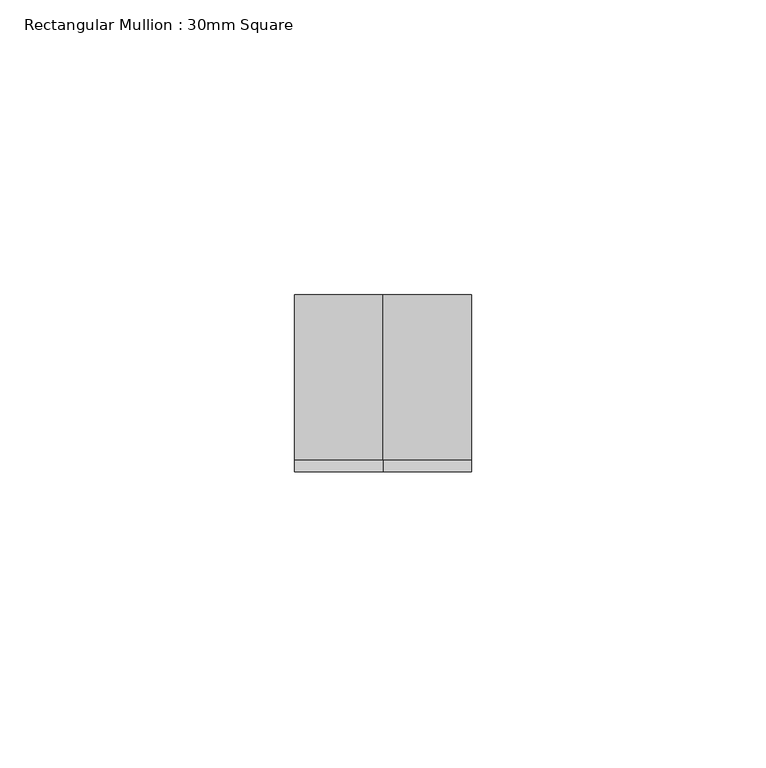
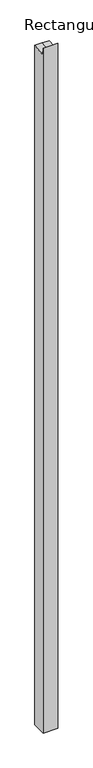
"""IFC4 building model written with IfcOpenShell, lengths in millimetres: member geometry, Rectangular Mullion : 30mm Square."""

from ifc_helpers import new_model, si_unit, origin, place, context, project, spatial, faceted_brep, source, transform, mapped, element, save


def rectangular_mullion_30mm_square_fb89c945(model_context):
    return source(origin(), model_context, "Body", "Brep", [
        faceted_brep([(15.0, 15.0, -1479.0), (15.0, -15.0, -1479.0), (-15.0, -15.0, -1479.0), (-15.0, 15.0, -1479.0), (-15.0, 15.0, 1.7712434), (0.0, 15.0, 1.7712434), (15.0, 15.0, 1.7712434), (-15.0, -15.0, 14.058809), (-15.0, -13.0073511, -1.7573511), (15.0, -15.0, 14.058809), (0.0, -15.0, 14.058809), (15.0, -13.0073511, -1.7573511), (0.0, -13.0073511, -1.7573511)], [[[0, 1, 2, 3]], [[4, 5, 6, 0, 3]], [[7, 8, 4, 3, 2]], [[9, 10, 7, 2, 1]], [[6, 11, 9, 1, 0]], [[6, 5, 12, 11]], [[5, 4, 8, 12]], [[8, 7, 10, 12]], [[10, 9, 11, 12]]]),
    ])


if __name__ == "__main__":
    model = new_model("IFC4")
    model_context = context("Model", 3, world=origin())
    ifc_project = project(units=[si_unit("LENGTHUNIT", "METRE", prefix="MILLI")], contexts=[model_context])
    site = spatial("IfcSite", under=ifc_project)
    building = spatial("IfcBuilding", under=site)
    placement = place(None, origin())
    rectangular_mullion_30mm_square_shape = rectangular_mullion_30mm_square_fb89c945(model_context)
    element("IfcMember", 1, ObjectType="Rectangular Mullion : 30mm Square", at=placement, inside=building, context=model_context, shape_type="MappedRepresentation", body=[
        mapped(rectangular_mullion_30mm_square_shape, transform((0.0, 0.0, 0.0), x_axis=(1.0, 0.0, 0.0), y_axis=(0.0, 1.0, 0.0), z_axis=(0.0, 0.0, 1.0))),
    ])
    save(model, "model.ifc")
